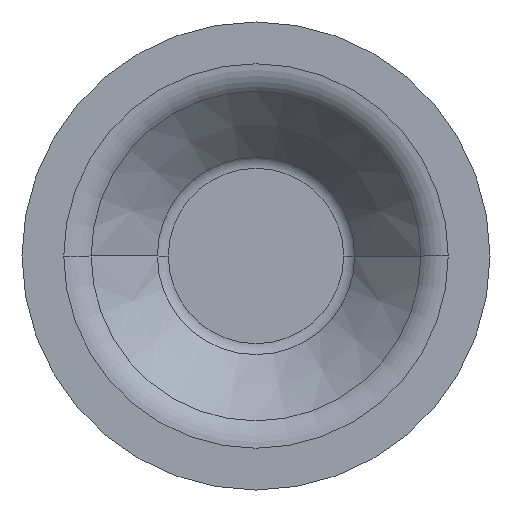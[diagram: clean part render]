
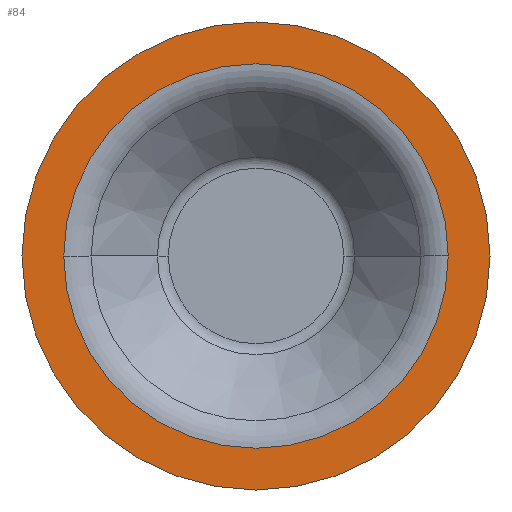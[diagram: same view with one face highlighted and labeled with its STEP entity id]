
A CAD part, front view. The second image highlights one B-rep face of the part: STEP entity #84.
In plain terms, the highlighted planar face has unit normal (0, -1, 0).
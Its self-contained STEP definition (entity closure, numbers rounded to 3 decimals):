
#50 = CARTESIAN_POINT ( 'NONE',  ( 31.5, -15., 0. ) ) ;
#84 = ADVANCED_FACE ( 'NONE', ( #533, #1298 ), #405, .T. ) ;
#109 = DIRECTION ( 'NONE',  ( -1., 0., 0. ) ) ;
#163 = DIRECTION ( 'NONE',  ( 0., -1., 0. ) ) ;
#193 = ORIENTED_EDGE ( 'NONE', *, *, #1123, .F. ) ;
#263 = EDGE_CURVE ( 'NONE', #347, #316, #646, .T. ) ;
#283 = CIRCLE ( 'NONE', #1206, 31.5 ) ;
#299 = CARTESIAN_POINT ( 'NONE',  ( 25.88, -15., 0. ) ) ;
#316 = VERTEX_POINT ( 'NONE', #1300 ) ;
#346 = AXIS2_PLACEMENT_3D ( 'NONE', #50, #787, #1425 ) ;
#347 = VERTEX_POINT ( 'NONE', #526 ) ;
#405 = PLANE ( 'NONE',  #346 ) ;
#410 = ORIENTED_EDGE ( 'NONE', *, *, #418, .T. ) ;
#418 = EDGE_CURVE ( 'NONE', #316, #347, #283, .T. ) ;
#474 = CARTESIAN_POINT ( 'NONE',  ( 0., -15., 0. ) ) ;
#510 = AXIS2_PLACEMENT_3D ( 'NONE', #530, #1542, #1015 ) ;
#526 = CARTESIAN_POINT ( 'NONE',  ( -31.5, -15., 0. ) ) ;
#530 = CARTESIAN_POINT ( 'NONE',  ( 0., -15., 0. ) ) ;
#533 = FACE_BOUND ( 'NONE', #1333, .T. ) ;
#535 = EDGE_CURVE ( 'NONE', #689, #1210, #1519, .T. ) ;
#595 = CARTESIAN_POINT ( 'NONE',  ( 0., -15., 0. ) ) ;
#646 = CIRCLE ( 'NONE', #1576, 31.5 ) ;
#689 = VERTEX_POINT ( 'NONE', #299 ) ;
#734 = CIRCLE ( 'NONE', #1087, 25.88 ) ;
#764 = ORIENTED_EDGE ( 'NONE', *, *, #263, .T. ) ;
#779 = DIRECTION ( 'NONE',  ( 1., 0., 0. ) ) ;
#787 = DIRECTION ( 'NONE',  ( 0., -1., 0. ) ) ;
#856 = CARTESIAN_POINT ( 'NONE',  ( -25.88, -15., 0. ) ) ;
#991 = CARTESIAN_POINT ( 'NONE',  ( 0., -15., 0. ) ) ;
#1015 = DIRECTION ( 'NONE',  ( -1., 0., 0. ) ) ;
#1087 = AXIS2_PLACEMENT_3D ( 'NONE', #991, #1618, #109 ) ;
#1120 = DIRECTION ( 'NONE',  ( 0., -1., 0. ) ) ;
#1123 = EDGE_CURVE ( 'NONE', #1210, #689, #734, .T. ) ;
#1206 = AXIS2_PLACEMENT_3D ( 'NONE', #595, #1120, #1621 ) ;
#1210 = VERTEX_POINT ( 'NONE', #856 ) ;
#1298 = FACE_OUTER_BOUND ( 'NONE', #1414, .T. ) ;
#1300 = CARTESIAN_POINT ( 'NONE',  ( 31.5, -15., 0. ) ) ;
#1333 = EDGE_LOOP ( 'NONE', ( #193, #1528 ) ) ;
#1414 = EDGE_LOOP ( 'NONE', ( #410, #764 ) ) ;
#1425 = DIRECTION ( 'NONE',  ( 1., 0., 0. ) ) ;
#1519 = CIRCLE ( 'NONE', #510, 25.88 ) ;
#1528 = ORIENTED_EDGE ( 'NONE', *, *, #535, .F. ) ;
#1542 = DIRECTION ( 'NONE',  ( 0., -1., 0. ) ) ;
#1576 = AXIS2_PLACEMENT_3D ( 'NONE', #474, #163, #779 ) ;
#1618 = DIRECTION ( 'NONE',  ( 0., -1., 0. ) ) ;
#1621 = DIRECTION ( 'NONE',  ( 1., 0., 0. ) ) ;
